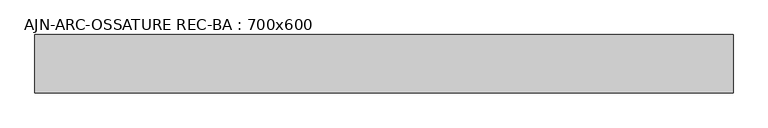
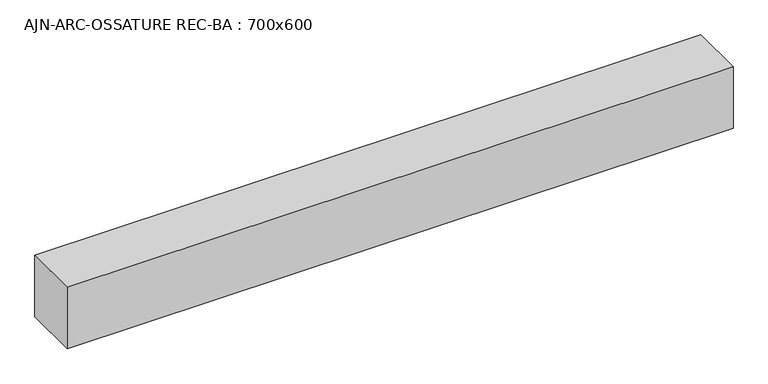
"""IFC4 building model written with IfcOpenShell, lengths in millimetres: beam geometry, AJN-ARC-OSSATURE REC-BA : 700x600."""

from ifc_helpers import new_model, si_unit, frame, origin, place, context, project, spatial, polyline, outline, extrude, source, transform, mapped, element, save


def ajn_arc_ossature_rec_ba_700x600_0984b03c(model_context):
    return source(origin(), model_context, "Body", "SweptSolid", [
        extrude(outline(polyline([(3750.0, 300.0), (3750.0, -300.0), (-3437.2999994, -300.0), (-3437.2999994, 300.0), (3750.0, 300.0)])), frame((0.0, 0.0, -350.0), z_axis=(0.0, 0.0, 1.0), x_axis=(1.0, 0.0, 0.0)), (0.0, 0.0, 1.0), 700.0),
    ])


if __name__ == "__main__":
    model = new_model("IFC4")
    model_context = context("Model", 3, world=origin())
    ifc_project = project(units=[si_unit("LENGTHUNIT", "METRE", prefix="MILLI")], contexts=[model_context])
    site = spatial("IfcSite", under=ifc_project)
    building = spatial("IfcBuilding", under=site)
    placement = place(None, origin())
    ajn_arc_ossature_rec_ba_700x600_shape = ajn_arc_ossature_rec_ba_700x600_0984b03c(model_context)
    element("IfcBeam", 1, ObjectType="AJN-ARC-OSSATURE REC-BA : 700x600", at=placement, inside=building, context=model_context, shape_type="MappedRepresentation", body=[
        mapped(ajn_arc_ossature_rec_ba_700x600_shape, transform((0.0, 0.0, 0.0), x_axis=(1.0, 0.0, 0.0), y_axis=(0.0, 1.0, 0.0), z_axis=(0.0, 0.0, 1.0))),
    ])
    save(model, "model.ifc")
